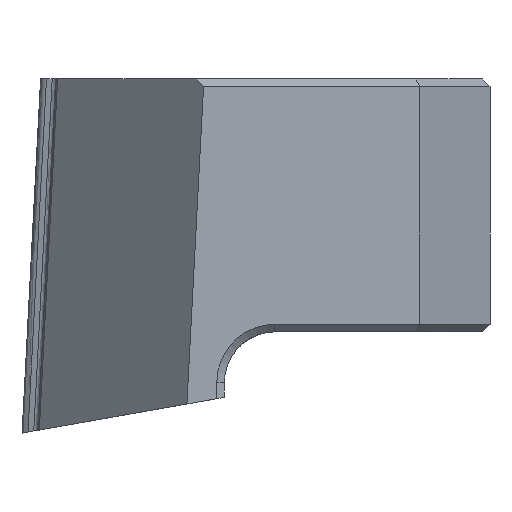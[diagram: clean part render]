
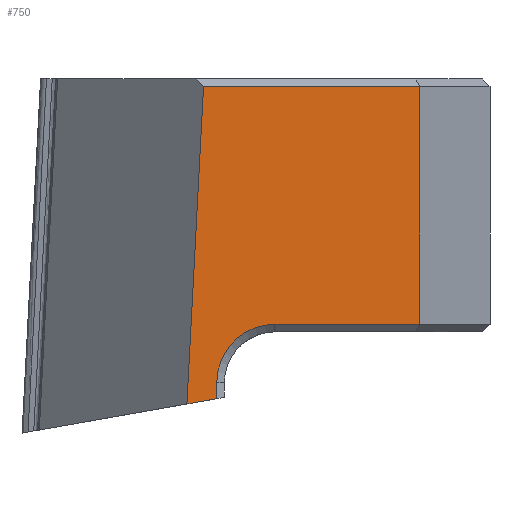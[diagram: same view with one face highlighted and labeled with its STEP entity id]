
A CAD part, left-side view. The second image highlights one B-rep face of the part: STEP entity #750.
In plain terms, the highlighted planar face has unit normal (-1, 0, 0).
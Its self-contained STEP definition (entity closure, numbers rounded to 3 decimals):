
#43 = EDGE_CURVE ( 'NONE', #1292, #552, #436, .T. ) ;
#88 = AXIS2_PLACEMENT_3D ( 'NONE', #601, #112, #1212 ) ;
#112 = DIRECTION ( 'NONE',  ( 1., 0., 0. ) ) ;
#132 = VECTOR ( 'NONE', #1253, 1000. ) ;
#137 = VECTOR ( 'NONE', #1290, 1000. ) ;
#144 = CARTESIAN_POINT ( 'NONE',  ( -6.55, -7.216, 14.446 ) ) ;
#175 = EDGE_CURVE ( 'NONE', #337, #1292, #307, .T. ) ;
#179 = CARTESIAN_POINT ( 'NONE',  ( -6.55, 0.001, 0. ) ) ;
#230 = CARTESIAN_POINT ( 'NONE',  ( -6.55, -7.177, 13.7 ) ) ;
#258 = EDGE_LOOP ( 'NONE', ( #528, #643, #754, #290, #403, #1523, #996 ) ) ;
#282 = DIRECTION ( 'NONE',  ( 0., 1., 0. ) ) ;
#288 = VERTEX_POINT ( 'NONE', #603 ) ;
#290 = ORIENTED_EDGE ( 'NONE', *, *, #615, .T. ) ;
#307 = LINE ( 'NONE', #1195, #782 ) ;
#337 = VERTEX_POINT ( 'NONE', #806 ) ;
#348 = DIRECTION ( 'NONE',  ( 0., -1., 0. ) ) ;
#349 = VECTOR ( 'NONE', #282, 1000. ) ;
#352 = CARTESIAN_POINT ( 'NONE',  ( -6.55, -10., 2. ) ) ;
#403 = ORIENTED_EDGE ( 'NONE', *, *, #175, .T. ) ;
#431 = CARTESIAN_POINT ( 'NONE',  ( -6.55, -6.519, 1.15 ) ) ;
#436 = CIRCLE ( 'NONE', #1414, 2.3 ) ;
#496 = VERTEX_POINT ( 'NONE', #431 ) ;
#498 = VECTOR ( 'NONE', #1337, 1000. ) ;
#528 = ORIENTED_EDGE ( 'NONE', *, *, #1494, .F. ) ;
#552 = VERTEX_POINT ( 'NONE', #1417 ) ;
#601 = CARTESIAN_POINT ( 'NONE',  ( -6.55, -15.732, 14. ) ) ;
#603 = CARTESIAN_POINT ( 'NONE',  ( -6.55, -15.732, 4.3 ) ) ;
#615 = EDGE_CURVE ( 'NONE', #496, #337, #661, .T. ) ;
#632 = LINE ( 'NONE', #144, #132 ) ;
#643 = ORIENTED_EDGE ( 'NONE', *, *, #692, .T. ) ;
#661 = LINE ( 'NONE', #179, #137 ) ;
#663 = VECTOR ( 'NONE', #348, 1000. ) ;
#692 = EDGE_CURVE ( 'NONE', #1133, #1394, #1255, .T. ) ;
#746 = CARTESIAN_POINT ( 'NONE',  ( -6.55, -7.192, 13.7 ) ) ;
#750 = ADVANCED_FACE ( 'NONE', ( #1594 ), #1085, .F. ) ;
#754 = ORIENTED_EDGE ( 'NONE', *, *, #1270, .T. ) ;
#782 = VECTOR ( 'NONE', #1339, 1000. ) ;
#806 = CARTESIAN_POINT ( 'NONE',  ( -6.55, -7.7, 1.358 ) ) ;
#811 = CARTESIAN_POINT ( 'NONE',  ( -6.55, -15.732, 4.3 ) ) ;
#939 = DIRECTION ( 'NONE',  ( 0., 0., -1. ) ) ;
#985 = CARTESIAN_POINT ( 'NONE',  ( -6.55, -7.7, 2. ) ) ;
#996 = ORIENTED_EDGE ( 'NONE', *, *, #1032, .T. ) ;
#1032 = EDGE_CURVE ( 'NONE', #552, #288, #1342, .T. ) ;
#1085 = PLANE ( 'NONE',  #88 ) ;
#1116 = LINE ( 'NONE', #1340, #498 ) ;
#1133 = VERTEX_POINT ( 'NONE', #1583 ) ;
#1195 = CARTESIAN_POINT ( 'NONE',  ( -6.55, -7.7, 14. ) ) ;
#1212 = DIRECTION ( 'NONE',  ( 0., 0., -1. ) ) ;
#1253 = DIRECTION ( 'NONE',  ( 0., 0.052, -0.999 ) ) ;
#1255 = LINE ( 'NONE', #746, #349 ) ;
#1270 = EDGE_CURVE ( 'NONE', #1394, #496, #632, .T. ) ;
#1290 = DIRECTION ( 'NONE',  ( 0., -0.985, 0.174 ) ) ;
#1292 = VERTEX_POINT ( 'NONE', #985 ) ;
#1337 = DIRECTION ( 'NONE',  ( 0., 0., -1. ) ) ;
#1339 = DIRECTION ( 'NONE',  ( 0., 0., 1. ) ) ;
#1340 = CARTESIAN_POINT ( 'NONE',  ( -6.55, -15.732, 14. ) ) ;
#1342 = LINE ( 'NONE', #811, #663 ) ;
#1394 = VERTEX_POINT ( 'NONE', #230 ) ;
#1414 = AXIS2_PLACEMENT_3D ( 'NONE', #352, #1466, #939 ) ;
#1417 = CARTESIAN_POINT ( 'NONE',  ( -6.55, -10., 4.3 ) ) ;
#1466 = DIRECTION ( 'NONE',  ( 1., 0., 0. ) ) ;
#1494 = EDGE_CURVE ( 'NONE', #1133, #288, #1116, .T. ) ;
#1523 = ORIENTED_EDGE ( 'NONE', *, *, #43, .T. ) ;
#1583 = CARTESIAN_POINT ( 'NONE',  ( -6.55, -15.732, 13.7 ) ) ;
#1594 = FACE_OUTER_BOUND ( 'NONE', #258, .T. ) ;
